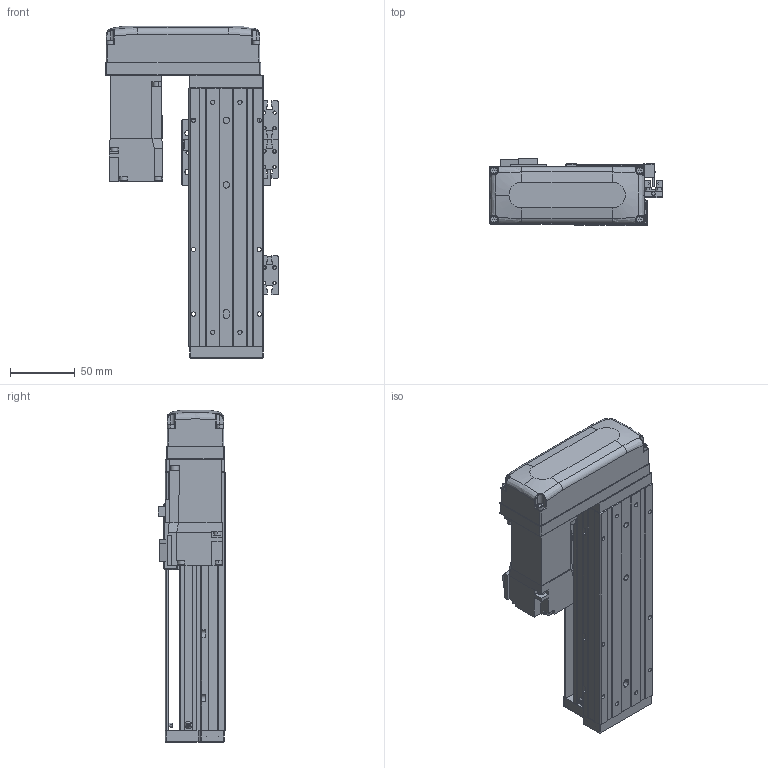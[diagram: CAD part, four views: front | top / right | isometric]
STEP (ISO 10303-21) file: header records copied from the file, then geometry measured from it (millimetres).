
FILE_DESCRIPTION (( 'STEP AP203' ), '1' );
FILE_NAME ('KTHA50-100-BR-M10-C4L.step', '2022-03-19T07:14:31', ( '微软用户' ), ( '微软中国' ), 'SwSTEP 2.0', 'SolidWorks 2020', '' );
FILE_SCHEMA (( 'CONFIG_CONTROL_DESIGN' ));
Length unit declared in the file: millimetre
Products named in the file (18): CTHA60-033; KTHA50-004; GBT 70.1-M4×12; KTHA50-001_200; GBT 70.1-M3×15; KTHA50-005; CTHA60-016; KTHA50-100-BR-M10-C4L; GB¨uT 70.2-M3¡Á6_M3¡Á6; CTHA60-021; EE_SX911P_R; GBT 70.3-M3℅6; GBT77-2000 M3×3; HG-KR13（三菱）; GBT 70.1-M3℅6; CTHA50-015-2_CTHA60-015-2; KTHA50-002; CTHA60-017
Assembly tree (53 placements, depth 2):
  KTHA50-100-BR-M10-C4L
    KTHA50-001_200
    KTHA50-002
    KTHA50-004
    KTHA50-005
    GB¨uT 70.2-M3¡Á6_M3¡Á6  x6
    EE_SX911P_R  x3
    GBT77-2000 M3×3  x6
    GBT 70.1-M3℅6  x6
    CTHA60-017  x3
    GBT 70.1-M4×12  x10
    CTHA60-016  x2
    CTHA60-021  x2
    GBT 70.3-M3℅6  x4
    HG-KR13（三菱）
    CTHA50-015-2_CTHA60-015-2
    CTHA60-033
    GBT 70.1-M3×15  x4
Bounding box: 133.82 x 52.3 x 257 mm (x, y, z)
Volume: 712497.8 mm3; surface area: 176719.7 mm2
Topology: 56 solids, 56 shells, 2203 faces, 5183 edges, 3172 vertices
Faces by surface type: plane 1228, cylinder 532, cone 301, torus 100, bspline 26, sphere 16
Entity records: 36297 total; most frequent: CARTESIAN_POINT 6898, DIRECTION 5635, ORIENTED_EDGE 5378, EDGE_CURVE 2689, AXIS2_PLACEMENT_3D 1925, VECTOR 1785, LINE 1785, VERTEX_POINT 1686
